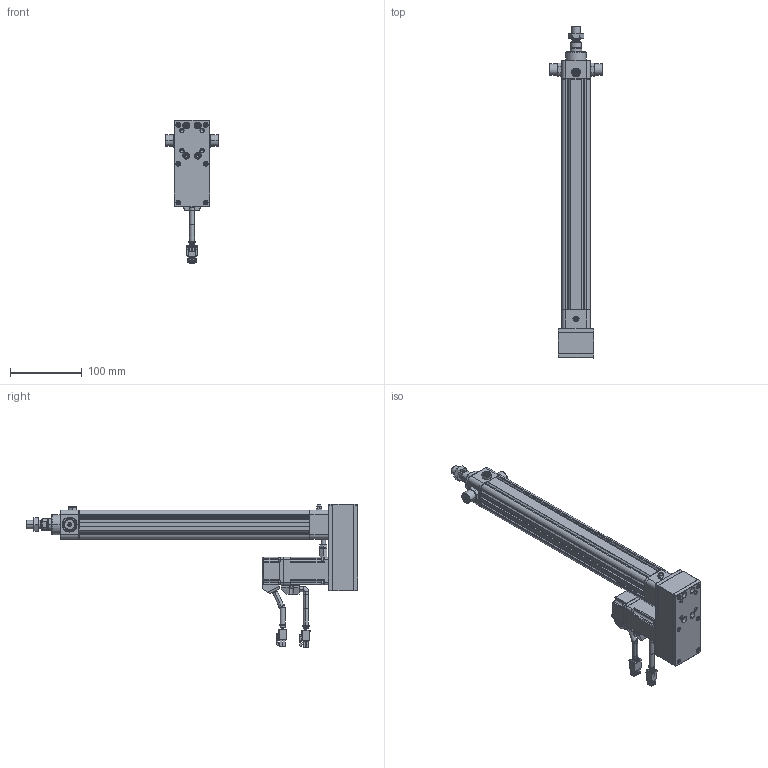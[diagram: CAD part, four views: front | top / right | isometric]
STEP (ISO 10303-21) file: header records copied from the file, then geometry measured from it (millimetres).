
FILE_DESCRIPTION((''),'2;1');
FILE_NAME('HE32-D-100-2-5_ASM','2020-05-18T',('ASUS20200'),(''),'CREO PARAMETRIC BY PTC INC, 2014190','CREO PARAMETRIC BY PTC INC, 2014190','');
FILE_SCHEMA(('CONFIG_CONTROL_DESIGN'));
Length unit declared in the file: millimetre
Products named in the file (30): HE32-001-X1; HE32-002-X1; HE32-003-X1; 636ZZ; LGLM-M6-22; TF1622-20; HE32-P-011-X1; 1_1_AF0; 2_1; 3_1; 4_1; 5_1; 6_1; 7_1; ASM0001_ASM; M6X25; LM-M6-15; M6; SLM-01; YZ-M6X1; HE32-P-012-X2; HE32-P-014-X1; M3X35; HE32-TC; HE32-005-X1; HE32-004-X1; HE32-D-P-008-X1; TD-3; M3X16; HE32-D-100-2-5_ASM
Assembly tree (48 placements, depth 3):
  HE32-D-100-2-5_ASM
    HE32-001-X1
    HE32-002-X1
    HE32-003-X1
    636ZZ
    LGLM-M6-22  x8
    TF1622-20
    HE32-P-011-X1
    ASM0001_ASM
      1_1_AF0
      2_1
      3_1
      4_1
      5_1
      6_1
      7_1
    M6X25
    LM-M6-15
    M6
    SLM-01
    YZ-M6X1
    HE32-P-012-X2
    HE32-P-014-X1
    M3X35  x6
    HE32-TC  x2
    HE32-005-X1
    HE32-004-X1
    HE32-D-P-008-X1
    TD-3  x4
    M3X16  x4
Bounding box: 75 x 461 x 198.7 mm (x, y, z)
Volume: 616552.7 mm3; surface area: 275943.1 mm2
Topology: 47 solids, 83 shells, 2734 faces, 6546 edges, 4038 vertices
Faces by surface type: plane 1179, cylinder 754, cone 679, torus 86, bspline 18, sphere 18
Entity records: 67387 total; most frequent: CARTESIAN_POINT 13454, DIRECTION 11732, ORIENTED_EDGE 10592, EDGE_CURVE 5362, AXIS2_PLACEMENT_3D 4351, VERTEX_POINT 3336, VECTOR 3030, LINE 3030
